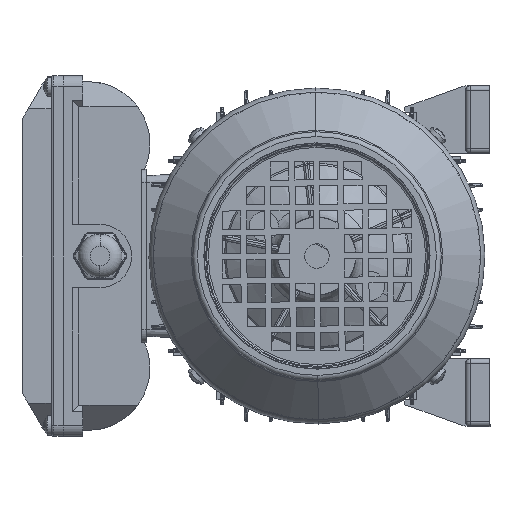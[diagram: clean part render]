
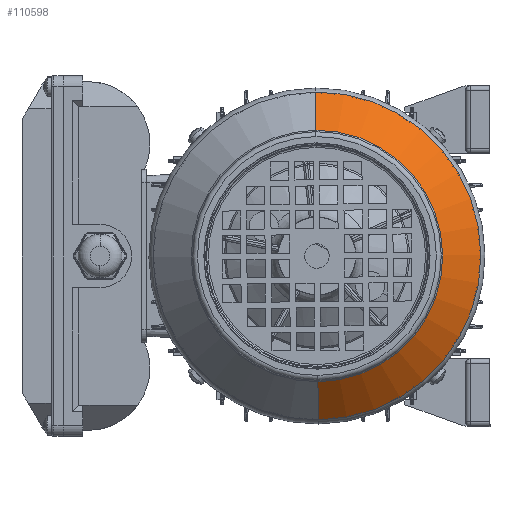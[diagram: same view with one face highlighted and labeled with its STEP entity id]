
A CAD part, left-side view. The second image highlights one B-rep face of the part: STEP entity #110598.
In plain terms, the highlighted conical face has half-angle 45 degrees and reference radius 51.586 mm.
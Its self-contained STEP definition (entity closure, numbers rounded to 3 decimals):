
#1657 = ORIENTED_EDGE ( 'NONE', *, *, #34455, .T. ) ;
#2356 = LINE ( 'NONE', #105184, #106713 ) ;
#3510 = CIRCLE ( 'NONE', #42983, 67.251 ) ;
#9069 = DIRECTION ( 'NONE',  ( -1., 0., 0. ) ) ;
#11607 = CARTESIAN_POINT ( 'NONE',  ( 53.749, 0., 67.251 ) ) ;
#17215 = EDGE_CURVE ( 'NONE', #108528, #97627, #2356, .T. ) ;
#18883 = DIRECTION ( 'NONE',  ( -1., 0., 0. ) ) ;
#20698 = AXIS2_PLACEMENT_3D ( 'NONE', #100649, #9069, #29208 ) ;
#21451 = CARTESIAN_POINT ( 'NONE',  ( 53.749, 0., 0. ) ) ;
#23901 = FACE_OUTER_BOUND ( 'NONE', #31587, .T. ) ;
#27098 = DIRECTION ( 'NONE',  ( 0., 0., 1. ) ) ;
#29208 = DIRECTION ( 'NONE',  ( 0., 0., 1. ) ) ;
#31587 = EDGE_LOOP ( 'NONE', ( #132425, #1657, #86058, #112893 ) ) ;
#34455 = EDGE_CURVE ( 'NONE', #108528, #100423, #73173, .T. ) ;
#40134 = DIRECTION ( 'NONE',  ( -1., 0., 0. ) ) ;
#42983 = AXIS2_PLACEMENT_3D ( 'NONE', #21451, #40134, #113032 ) ;
#48171 = DIRECTION ( 'NONE',  ( -0.707, 0., 0.707 ) ) ;
#48262 = CONICAL_SURFACE ( 'NONE', #20698, 51.586, 0.785 ) ;
#53378 = LINE ( 'NONE', #121558, #79494 ) ;
#57532 = CARTESIAN_POINT ( 'NONE',  ( 69.414, 0., -51.586 ) ) ;
#73173 = CIRCLE ( 'NONE', #86700, 51.586 ) ;
#79481 = VERTEX_POINT ( 'NONE', #11607 ) ;
#79494 = VECTOR ( 'NONE', #48171, 1000. ) ;
#83790 = DIRECTION ( 'NONE',  ( -0.707, 0., -0.707 ) ) ;
#86058 = ORIENTED_EDGE ( 'NONE', *, *, #99558, .T. ) ;
#86700 = AXIS2_PLACEMENT_3D ( 'NONE', #91258, #18883, #27098 ) ;
#91258 = CARTESIAN_POINT ( 'NONE',  ( 69.414, 0., 0. ) ) ;
#97627 = VERTEX_POINT ( 'NONE', #109395 ) ;
#99558 = EDGE_CURVE ( 'NONE', #100423, #79481, #53378, .T. ) ;
#100423 = VERTEX_POINT ( 'NONE', #129475 ) ;
#100649 = CARTESIAN_POINT ( 'NONE',  ( 69.414, 0., 0. ) ) ;
#105184 = CARTESIAN_POINT ( 'NONE',  ( 69.414, 0., -51.586 ) ) ;
#106118 = EDGE_CURVE ( 'NONE', #97627, #79481, #3510, .T. ) ;
#106713 = VECTOR ( 'NONE', #83790, 1000. ) ;
#108528 = VERTEX_POINT ( 'NONE', #57532 ) ;
#109395 = CARTESIAN_POINT ( 'NONE',  ( 53.749, 0., -67.251 ) ) ;
#110598 = ADVANCED_FACE ( 'NONE', ( #23901 ), #48262, .T. ) ;
#112893 = ORIENTED_EDGE ( 'NONE', *, *, #106118, .F. ) ;
#113032 = DIRECTION ( 'NONE',  ( 0., 0., 1. ) ) ;
#121558 = CARTESIAN_POINT ( 'NONE',  ( 69.414, 0., 51.586 ) ) ;
#129475 = CARTESIAN_POINT ( 'NONE',  ( 69.414, 0., 51.586 ) ) ;
#132425 = ORIENTED_EDGE ( 'NONE', *, *, #17215, .F. ) ;
